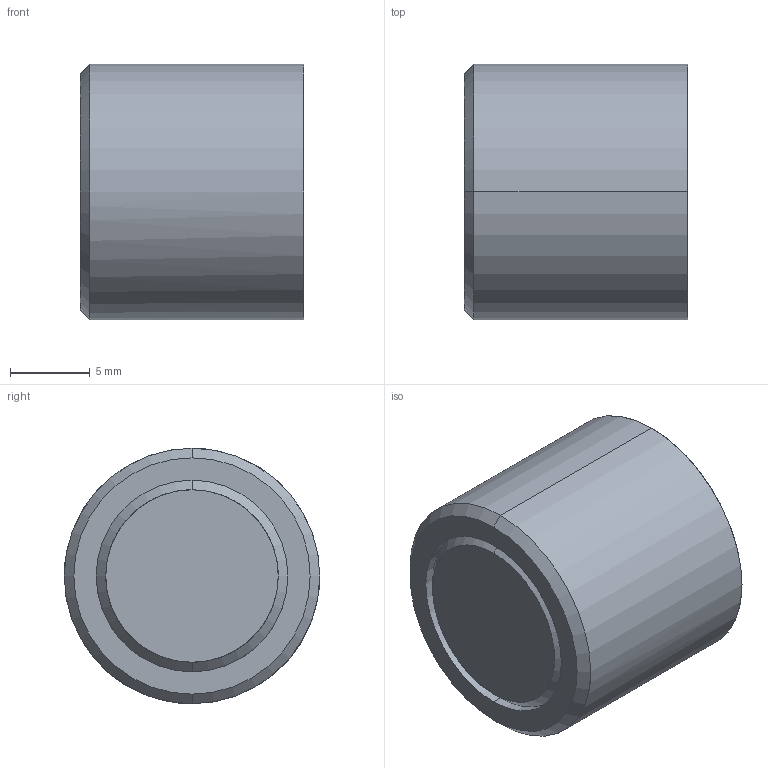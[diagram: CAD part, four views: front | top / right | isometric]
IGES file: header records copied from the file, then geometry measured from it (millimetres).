
Start section: START RECORD GO HERE.
Global section: file name: D375-16-A-DM-FA.igs; native system: DASSAULT SYSTEMES CATIA V5 R20 - www.3ds.com; preprocessor: CATIA Version 5 Release 20 ; author: Utente; organization: NB04-ASUS; date: 20210326.154351; units: millimetre
Bounding box: 14 x 16 x 16 mm (x, y, z)
Surface area: 2154.4 mm2 (no closed solid volume)
Topology: 0 solids, 0 shells, 216 faces, 1190 edges, 1188 vertices
Faces by surface type: plane 135, revolution 81
